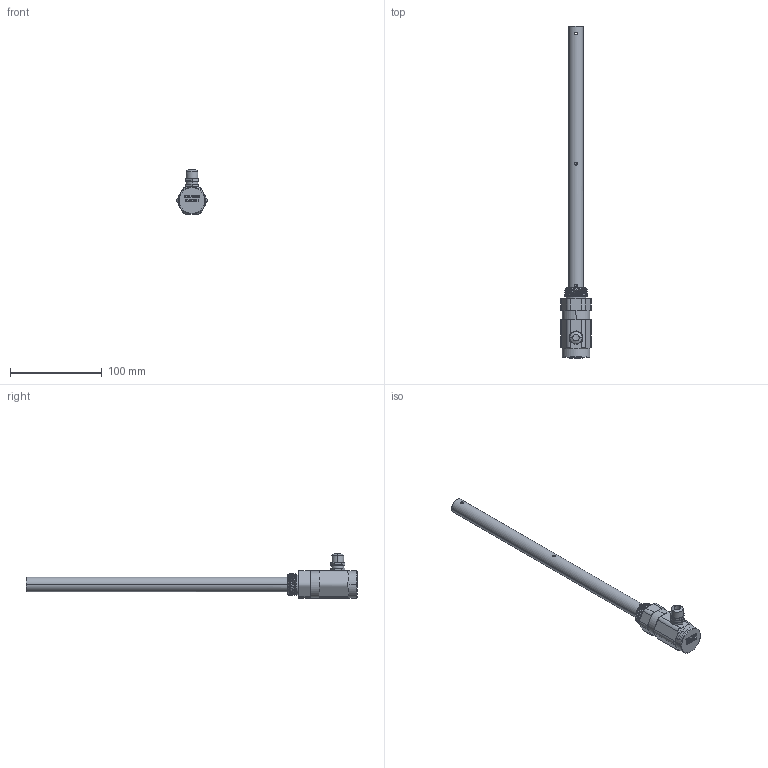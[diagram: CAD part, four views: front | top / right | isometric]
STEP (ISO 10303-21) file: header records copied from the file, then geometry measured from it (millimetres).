
FILE_DESCRIPTION((''),'2;1');
FILE_NAME('3330001_ASM','2026-01-26T11:13:43',('28740194'),(''),'CREO PARAMETRIC BY PTC INC, 2024063','CREO PARAMETRIC BY PTC INC, 2024063','');
FILE_SCHEMA(('CONFIG_CONTROL_DESIGN'));
Length unit declared in the file: millimetre
Products named in the file (8): KS_LV_605_01_GAIZI; PRT0027; KS_LV_605_03_SUOJINLUOMU; 0005; 160001; KS_LV_605_16DIBUSAIZI; 000; 3330001_ASM
Assembly tree (7 placements, depth 2):
  3330001_ASM
    KS_LV_605_01_GAIZI
    PRT0027
    KS_LV_605_03_SUOJINLUOMU
    0005
    160001
    KS_LV_605_16DIBUSAIZI
    000
Bounding box: 33.09 x 361.5 x 48.58 mm (x, y, z)
Volume: 74441.2 mm3; surface area: 60406.8 mm2
Topology: 7 solids, 8 shells, 797 faces, 2245 edges, 1495 vertices
Faces by surface type: plane 459, cylinder 224, bspline 75, cone 24, torus 14, extrusion 1
Entity records: 46092 total; most frequent: CARTESIAN_POINT 26232, ORIENTED_EDGE 4482, DIRECTION 3465, EDGE_CURVE 2243, VERTEX_POINT 1495, VECTOR 1445, LINE 1444, AXIS2_PLACEMENT_3D 1010
